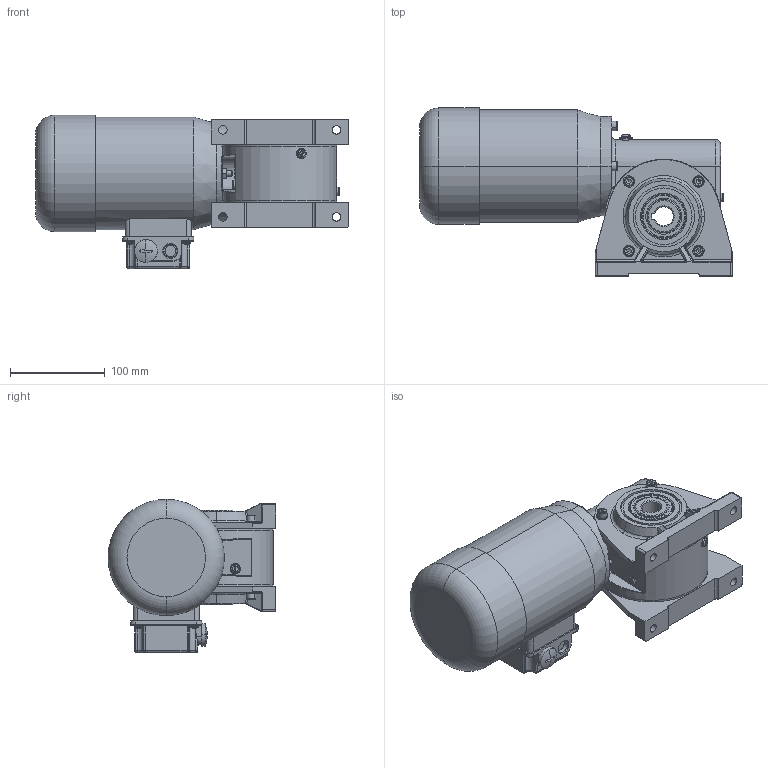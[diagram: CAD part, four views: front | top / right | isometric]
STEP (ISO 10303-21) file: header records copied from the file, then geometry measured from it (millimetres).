
FILE_DESCRIPTION (( 'STEP AP214' ), '1' );
FILE_NAME ('SN8SHH_180W_1400Upm_Drehstrom-Motor_A.STEP', '2021-09-21T12:56:01', ( '' ), ( '' ), 'SwSTEP 2.0', 'SolidWorks 2019', '' );
FILE_SCHEMA (( 'AUTOMOTIVE_DESIGN' ));
Length unit declared in the file: millimetre
Products named in the file (13): NBR_WDR_35x47x7; SN8SHH_3D_Export; hex nut style 1 gradeab_din_Hexagon Nut ISO 4032 - M6 - D - C; U-Seal Ring Ø5; Kupferscheibe Ø6x12x1,5 DIN7603 A; 08FH-W-001_3D_Export; SN8SHH_180W_1400Upm_Drehstrom-Motor_A; 08-M-166 I 180W_1400Upm; 08B-G-003_3D_Export; slotted pan head screw_din_DIN EN ISO 1580 - M5 x 6 - 6C; socket set screw flat point_din_DIN 913 - M6 x 25-C; 08SHH-D-001_3D_Export; socket head cap screw_din_DIN 912 M6 x 20 --- 20C
Assembly tree (37 placements, depth 3):
  SN8SHH_180W_1400Upm_Drehstrom-Motor_A
    SN8SHH_3D_Export
      08B-G-003_3D_Export
      08FH-W-001_3D_Export
      08SHH-D-001_3D_Export  x2
      NBR_WDR_35x47x7  x2
      socket head cap screw_din_DIN 912 M6 x 20 --- 20C  x11
      slotted pan head screw_din_DIN EN ISO 1580 - M5 x 6 - 6C  x4
      socket set screw flat point_din_DIN 913 - M6 x 25-C
      hex nut style 1 gradeab_din_Hexagon Nut ISO 4032 - M6 - D - C
      Kupferscheibe Ø6x12x1,5 DIN7603 A  x8
      U-Seal Ring Ø5  x4
    08-M-166 I 180W_1400Upm
Bounding box: 330.5 x 177.5 x 162.2 mm (x, y, z)
Volume: 3502532.6 mm3; surface area: 337238.1 mm2
Topology: 37 solids, 37 shells, 1333 faces, 3165 edges, 1934 vertices
Faces by surface type: cylinder 450, plane 406, torus 206, cone 189, bspline 58, sphere 24
Entity records: 28901 total; most frequent: CARTESIAN_POINT 8527, DIRECTION 4397, ORIENTED_EDGE 4020, EDGE_CURVE 2010, AXIS2_PLACEMENT_3D 1870, VERTEX_POINT 1259, CIRCLE 1048, EDGE_LOOP 901
